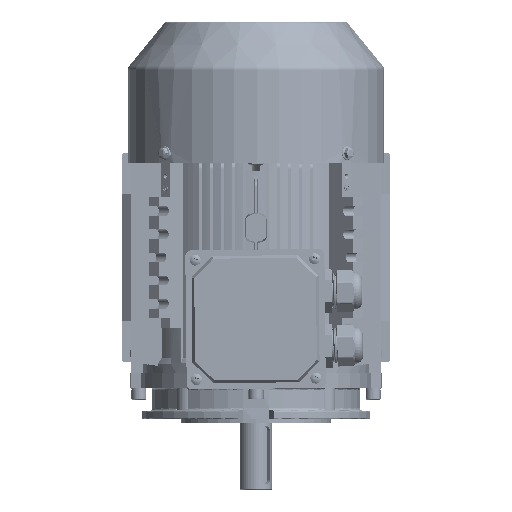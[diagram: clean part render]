
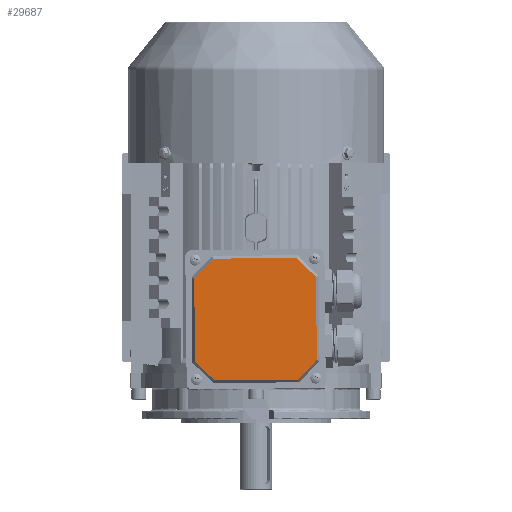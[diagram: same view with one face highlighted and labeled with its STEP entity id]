
A CAD part, top view. The second image highlights one B-rep face of the part: STEP entity #29687.
In plain terms, the highlighted planar face has unit normal (0, 0, 1) as drawn and (0, 0, -1) by its records, which use the part's own axes.
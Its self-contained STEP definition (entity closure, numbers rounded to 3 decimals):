
#280 = EDGE_CURVE ( 'NONE', #64254, #122662, #7020, .T. ) ;
#3526 = VERTEX_POINT ( 'NONE', #96296 ) ;
#5203 = CARTESIAN_POINT ( 'NONE',  ( -52.536, -35.903, -4. ) ) ;
#6623 = CARTESIAN_POINT ( 'NONE',  ( -44.22, -44.22, -4. ) ) ;
#7020 = LINE ( 'NONE', #72488, #80859 ) ;
#9828 = EDGE_CURVE ( 'NONE', #121311, #10969, #95117, .T. ) ;
#10969 = VERTEX_POINT ( 'NONE', #60290 ) ;
#11602 = CARTESIAN_POINT ( 'NONE',  ( 35.903, 52.536, -4. ) ) ;
#15195 = DIRECTION ( 'NONE',  ( 0., 0., 1. ) ) ;
#15688 = VECTOR ( 'NONE', #50110, 1000. ) ;
#17486 = CARTESIAN_POINT ( 'NONE',  ( 44.22, -44.22, -4. ) ) ;
#18822 = ORIENTED_EDGE ( 'NONE', *, *, #9828, .F. ) ;
#24063 = PLANE ( 'NONE',  #83102 ) ;
#29687 = ADVANCED_FACE ( 'NONE', ( #118934 ), #24063, .F. ) ;
#30516 = VERTEX_POINT ( 'NONE', #11602 ) ;
#35260 = DIRECTION ( 'NONE',  ( 1., 0., 0. ) ) ;
#37073 = LINE ( 'NONE', #83337, #62742 ) ;
#37367 = VECTOR ( 'NONE', #104033, 1000. ) ;
#39450 = CARTESIAN_POINT ( 'NONE',  ( 35.903, -52.536, -4. ) ) ;
#43094 = LINE ( 'NONE', #6623, #91429 ) ;
#43102 = VERTEX_POINT ( 'NONE', #39450 ) ;
#44235 = LINE ( 'NONE', #98216, #15688 ) ;
#45717 = LINE ( 'NONE', #85997, #65369 ) ;
#46534 = EDGE_CURVE ( 'NONE', #30516, #64254, #44235, .T. ) ;
#48909 = CARTESIAN_POINT ( 'NONE',  ( 52.536, -35.903, -4. ) ) ;
#50110 = DIRECTION ( 'NONE',  ( -1., 0., 0. ) ) ;
#50783 = EDGE_CURVE ( 'NONE', #122662, #105523, #88676, .T. ) ;
#56252 = LINE ( 'NONE', #17486, #104541 ) ;
#57026 = DIRECTION ( 'NONE',  ( 0., 1., 0. ) ) ;
#60290 = CARTESIAN_POINT ( 'NONE',  ( 52.536, 35.903, -4. ) ) ;
#60486 = ORIENTED_EDGE ( 'NONE', *, *, #46534, .F. ) ;
#61569 = EDGE_CURVE ( 'NONE', #43102, #121311, #56252, .T. ) ;
#62742 = VECTOR ( 'NONE', #35260, 1000. ) ;
#64254 = VERTEX_POINT ( 'NONE', #104667 ) ;
#65369 = VECTOR ( 'NONE', #105367, 1000. ) ;
#65747 = EDGE_CURVE ( 'NONE', #105523, #3526, #43094, .T. ) ;
#65887 = DIRECTION ( 'NONE',  ( 0.707, 0.707, 0. ) ) ;
#66416 = VECTOR ( 'NONE', #57026, 1000. ) ;
#72488 = CARTESIAN_POINT ( 'NONE',  ( -44.22, 44.22, -4. ) ) ;
#73995 = DIRECTION ( 'NONE',  ( 0.707, -0.707, 0. ) ) ;
#76695 = ORIENTED_EDGE ( 'NONE', *, *, #61569, .F. ) ;
#78569 = EDGE_LOOP ( 'NONE', ( #18822, #76695, #102203, #97098, #107978, #93678, #60486, #97858 ) ) ;
#80859 = VECTOR ( 'NONE', #120481, 1000. ) ;
#82601 = DIRECTION ( 'NONE',  ( 1., 0., 0. ) ) ;
#83102 = AXIS2_PLACEMENT_3D ( 'NONE', #111215, #15195, #82601 ) ;
#83337 = CARTESIAN_POINT ( 'NONE',  ( 0., -52.536, -4. ) ) ;
#84393 = EDGE_CURVE ( 'NONE', #3526, #43102, #37073, .T. ) ;
#85997 = CARTESIAN_POINT ( 'NONE',  ( 44.22, 44.22, -4. ) ) ;
#88676 = LINE ( 'NONE', #94378, #37367 ) ;
#91429 = VECTOR ( 'NONE', #73995, 1000. ) ;
#93678 = ORIENTED_EDGE ( 'NONE', *, *, #280, .F. ) ;
#94378 = CARTESIAN_POINT ( 'NONE',  ( -52.536, 0., -4. ) ) ;
#95117 = LINE ( 'NONE', #124051, #66416 ) ;
#96296 = CARTESIAN_POINT ( 'NONE',  ( -35.903, -52.536, -4. ) ) ;
#97098 = ORIENTED_EDGE ( 'NONE', *, *, #65747, .F. ) ;
#97124 = CARTESIAN_POINT ( 'NONE',  ( -52.536, 35.903, -4. ) ) ;
#97858 = ORIENTED_EDGE ( 'NONE', *, *, #117515, .F. ) ;
#98216 = CARTESIAN_POINT ( 'NONE',  ( 0., 52.536, -4. ) ) ;
#102203 = ORIENTED_EDGE ( 'NONE', *, *, #84393, .F. ) ;
#104033 = DIRECTION ( 'NONE',  ( 0., -1., 0. ) ) ;
#104541 = VECTOR ( 'NONE', #65887, 1000. ) ;
#104667 = CARTESIAN_POINT ( 'NONE',  ( -35.903, 52.536, -4. ) ) ;
#105367 = DIRECTION ( 'NONE',  ( -0.707, 0.707, 0. ) ) ;
#105523 = VERTEX_POINT ( 'NONE', #5203 ) ;
#107978 = ORIENTED_EDGE ( 'NONE', *, *, #50783, .F. ) ;
#111215 = CARTESIAN_POINT ( 'NONE',  ( 0., 0., -4. ) ) ;
#117515 = EDGE_CURVE ( 'NONE', #10969, #30516, #45717, .T. ) ;
#118934 = FACE_OUTER_BOUND ( 'NONE', #78569, .T. ) ;
#120481 = DIRECTION ( 'NONE',  ( -0.707, -0.707, 0. ) ) ;
#121311 = VERTEX_POINT ( 'NONE', #48909 ) ;
#122662 = VERTEX_POINT ( 'NONE', #97124 ) ;
#124051 = CARTESIAN_POINT ( 'NONE',  ( 52.536, 0., -4. ) ) ;
